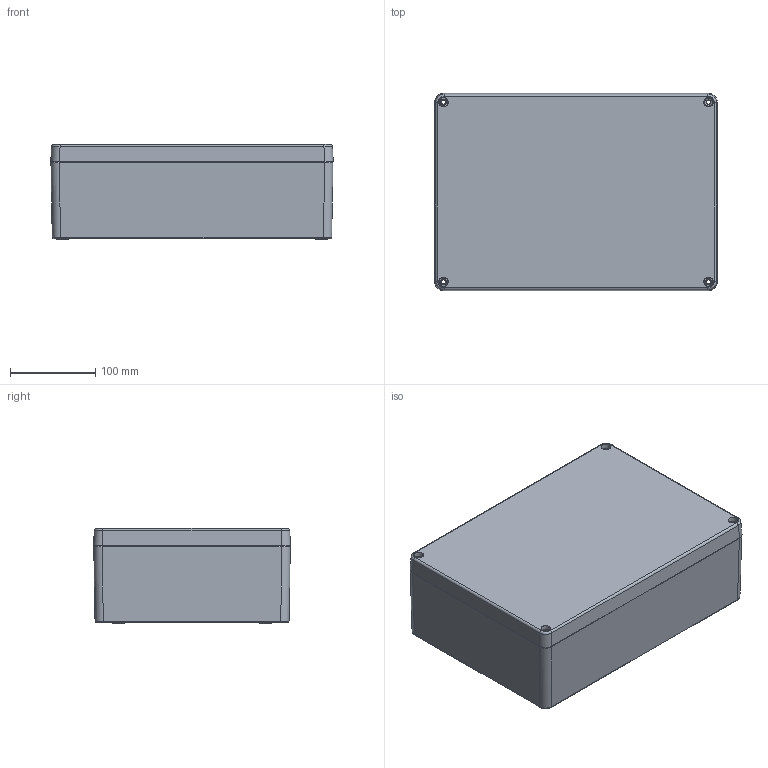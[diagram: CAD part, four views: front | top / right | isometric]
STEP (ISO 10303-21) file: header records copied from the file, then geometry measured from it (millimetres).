
FILE_DESCRIPTION (( 'STEP AP203' ), '1' );
FILE_NAME ('ALU ASSY 330230111.STEP', '2024-08-27T09:39:21', ( '' ), ( '' ), 'SwSTEP 2.0', 'SolidWorks 2018', '' );
FILE_SCHEMA (( 'CONFIG_CONTROL_DESIGN' ));
Products named in the file (3): ALU ASSY 330230111; ALU BASE 330230111; ALU LID 330230111
Assembly tree (2 placements, depth 2):
  ALU ASSY 330230111
    ALU BASE 330230111
    ALU LID 330230111
Bounding box: 330.47 x 230.52 x 111.25 mm (x, y, z)
Volume: 1324369.1 mm3; surface area: 561411.1 mm2
Topology: 2 solids, 2 shells, 2432 faces, 7167 edges, 4835 vertices
Faces by surface type: bspline 1105, plane 1035, cylinder 258, cone 34
Entity records: 118629 total; most frequent: CARTESIAN_POINT 63497, ORIENTED_EDGE 14294, EDGE_CURVE 7147, DIRECTION 6630, VERTEX_POINT 4833, B_SPLINE_CURVE_WITH_KNOTS 3509, LINE 3250, VECTOR 3250
